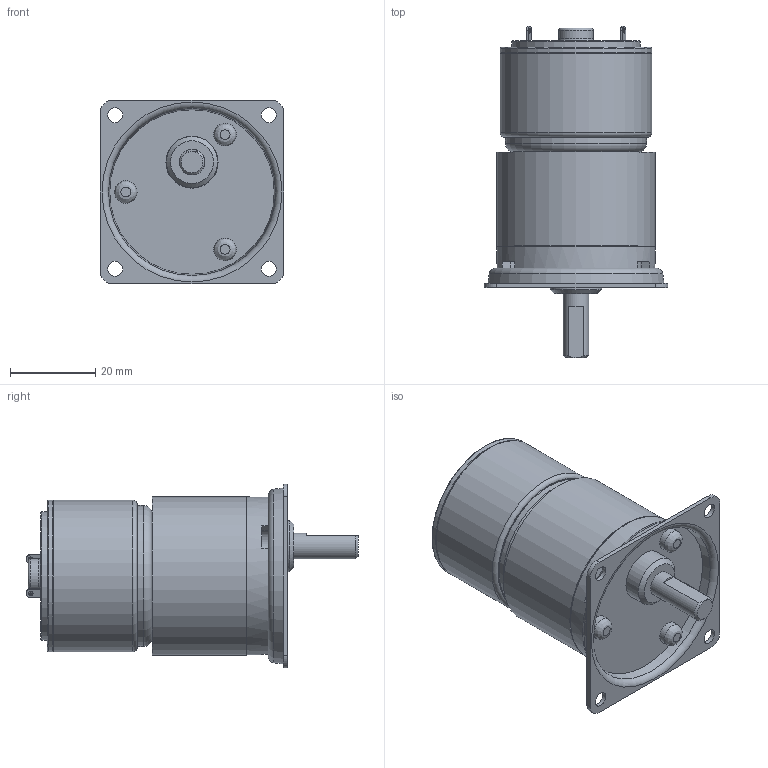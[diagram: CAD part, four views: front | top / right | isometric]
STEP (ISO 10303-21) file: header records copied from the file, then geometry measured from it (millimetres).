
FILE_DESCRIPTION((''),'2;1');
FILE_NAME('C:\Documents and Settings\SSEGAWA\デスクトップ\TP-3526E-PKS-4.STP','2013-07-09T16:55:51',('SSEGAWA'),(''),'Autodesk Inventor 2010','Autodesk Inventor 2010','');
FILE_SCHEMA(('CONFIG_CONTROL_DESIGN'));
Length unit declared in the file: millimetre
Products named in the file (5): tp_3526e_pks_4; pks_4; ks_4; □43; tp_3526e
Assembly tree (4 placements, depth 3):
  tp_3526e_pks_4
    pks_4
      ks_4
      □43
    tp_3526e
Bounding box: 43 x 77.7 x 43 mm (x, y, z)
Volume: 56932 mm3; surface area: 15665.9 mm2
Topology: 4 solids, 4 shells, 121 faces, 271 edges, 178 vertices
Faces by surface type: plane 49, cylinder 31, bspline 29, torus 7, cone 5
Full cylindrical faces by diameter (mm): 1.1 x1, 2 x1, 2.4 x1, 5 x1, 5.3 x3, 6 x1, 8 x1, 10 x1, 12 x1, 12.2 x1, 30 x1, 33 x1, 35 x1, 35.4 x2, 36.6 x1, 37 x2
Entity records: 3550 total; most frequent: CARTESIAN_POINT 1122, DIRECTION 499, ORIENTED_EDGE 366, AXIS2_PLACEMENT_3D 217, EDGE_LOOP 215, EDGE_CURVE 183, VERTEX_POINT 150, FACE_OUTER_BOUND 121
